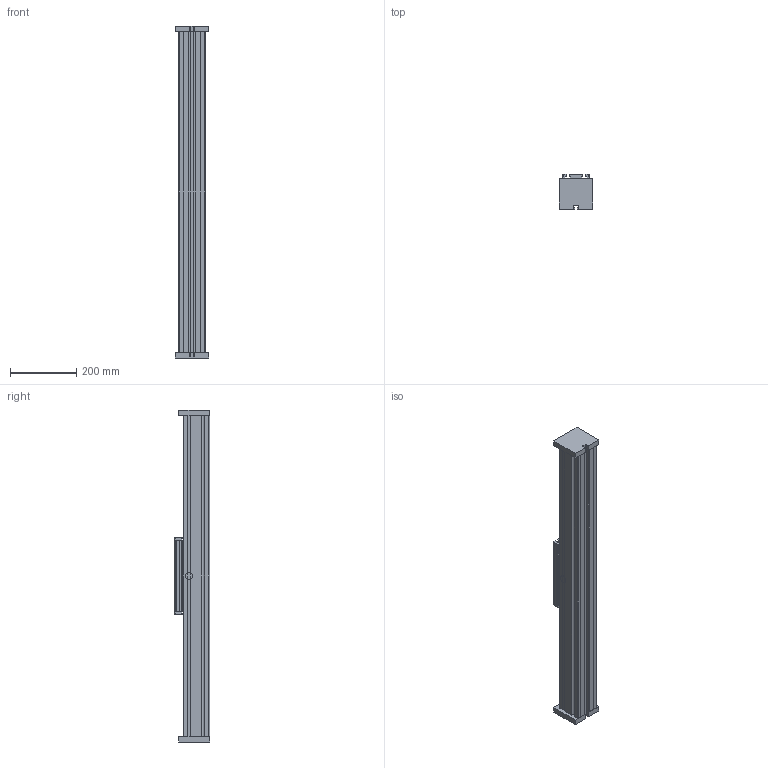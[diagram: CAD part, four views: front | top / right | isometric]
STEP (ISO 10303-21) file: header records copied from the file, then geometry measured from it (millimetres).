
FILE_DESCRIPTION (( 'STEP AP214' ), '1' );
FILE_NAME ('QSR80.STEP', '2022-06-29T12:02:22', ( '' ), ( '' ), 'SwSTEP 2.0', 'SolidWorks 2020', '' );
FILE_SCHEMA (( 'AUTOMOTIVE_DESIGN' ));
Length unit declared in the file: millimetre
Products named in the file (4): end plate^QSR80; carriage^QSR80_carriage version 0; QSR80; profile^QSR80_standard
Assembly tree (4 placements, depth 2):
  QSR80
    profile^QSR80_standard
    carriage^QSR80_carriage version 0
    end plate^QSR80  x2
Bounding box: 100 x 106 x 1000 mm (x, y, z)
Volume: 5201396.8 mm3; surface area: 634124.1 mm2
Topology: 8 solids, 8 shells, 201 faces, 539 edges, 354 vertices
Faces by surface type: plane 150, cylinder 43, torus 8
Entity records: 6118 total; most frequent: CARTESIAN_POINT 1039, ORIENTED_EDGE 1018, DIRECTION 991, EDGE_CURVE 509, LINE 419, VECTOR 419, VERTEX_POINT 334, AXIS2_PLACEMENT_3D 286
